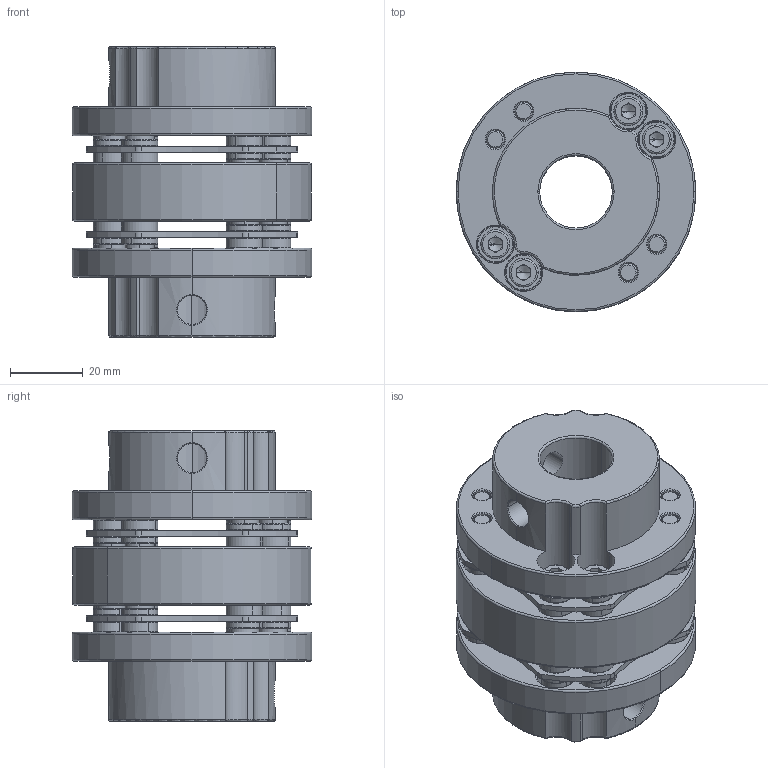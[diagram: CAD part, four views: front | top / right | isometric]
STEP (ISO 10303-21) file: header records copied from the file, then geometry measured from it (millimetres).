
FILE_DESCRIPTION (( 'STEP AP214' ), '1' );
FILE_NAME ('SHDW-66.STEP', '2009-05-22T01:07:47', ( '歜煽繹' ), ( '' ), 'SwSTEP 2.0', 'SolidWorks 2007', '' );
FILE_SCHEMA (( 'AUTOMOTIVE_DESIGN' ));
Length unit declared in the file: millimetre
Products named in the file (9): sdw-set_head_ル遽; SET-ASM_ル遽; sus-plate_ル遽; 辑胶魄 促弗 墨敲傅 绢祭锭荤侩_钎霖; collar-2_ル遽; collar-1_ル遽; sdw66-middle_ル遽; M5x14; SHDW-66
Assembly tree (30 placements, depth 4):
  SHDW-66
    sdw66-middle_ル遽
    SET-ASM_ル遽  x2
      M5x14
      sdw-set_head_ル遽
      辑胶魄 促弗 墨敲傅 绢祭锭荤侩_钎霖
        collar-1_ル遽  x8
        collar-2_ル遽  x8
        sus-plate_ル遽
Bounding box: 66 x 66 x 80 mm (x, y, z)
Volume: 132839.5 mm3; surface area: 62677.7 mm2
Topology: 53 solids, 53 shells, 1252 faces, 2742 edges, 1598 vertices
Faces by surface type: torus 392, cylinder 372, plane 332, cone 148, bspline 8
Entity records: 7992 total; most frequent: CARTESIAN_POINT 1729, DIRECTION 1428, ORIENTED_EDGE 1142, AXIS2_PLACEMENT_3D 619, EDGE_CURVE 571, CIRCLE 351, VERTEX_POINT 342, EDGE_LOOP 295
